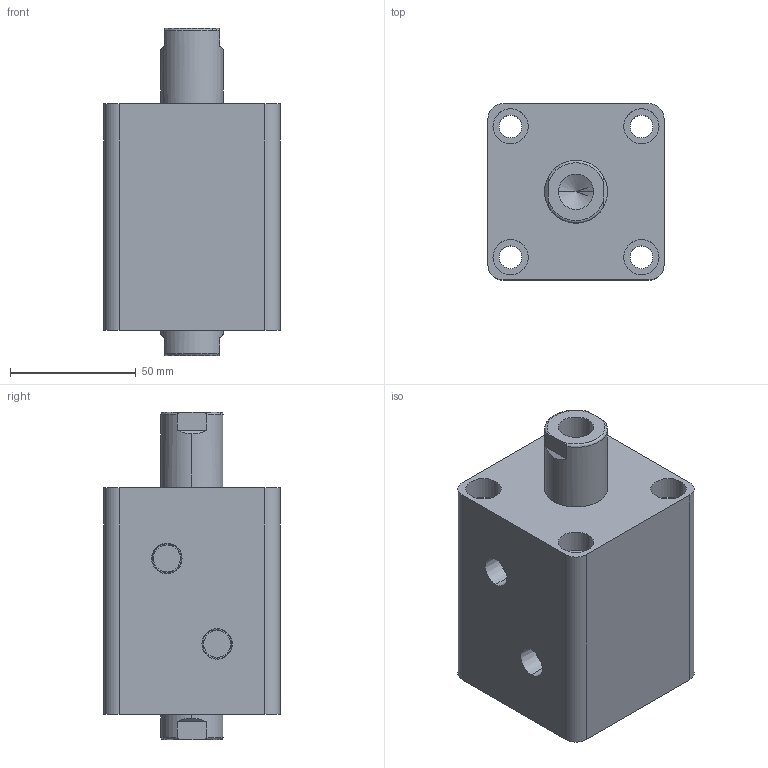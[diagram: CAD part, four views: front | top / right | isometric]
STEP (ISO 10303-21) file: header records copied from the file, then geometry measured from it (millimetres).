
FILE_DESCRIPTION (( 'STEP AP203' ), '1' );
FILE_NAME ('HTB-SW40-20N.STEP', '2019-10-07T09:05:51', ( '微软用户' ), ( '微软中国' ), 'SwSTEP 2.0', 'SolidWorks 2012', '' );
FILE_SCHEMA (( 'CONFIG_CONTROL_DESIGN' ));
Length unit declared in the file: millimetre
Products named in the file (3): HTB-SW40-20N; HTB-SW40-20N活塞杆; HTB-SW40-20掛极
Assembly tree (2 placements, depth 2):
  HTB-SW40-20N
    HTB-SW40-20掛极
    HTB-SW40-20N活塞杆
Bounding box: 70 x 70 x 130 mm (x, y, z)
Volume: 404748.9 mm3; surface area: 69801 mm2
Topology: 2 solids, 2 shells, 100 faces, 228 edges, 146 vertices
Faces by surface type: cylinder 48, plane 32, torus 12, cone 8
Entity records: 3237 total; most frequent: CARTESIAN_POINT 595, DIRECTION 542, ORIENTED_EDGE 448, AXIS2_PLACEMENT_3D 229, EDGE_CURVE 224, VERTEX_POINT 146, EDGE_LOOP 128, CIRCLE 124
